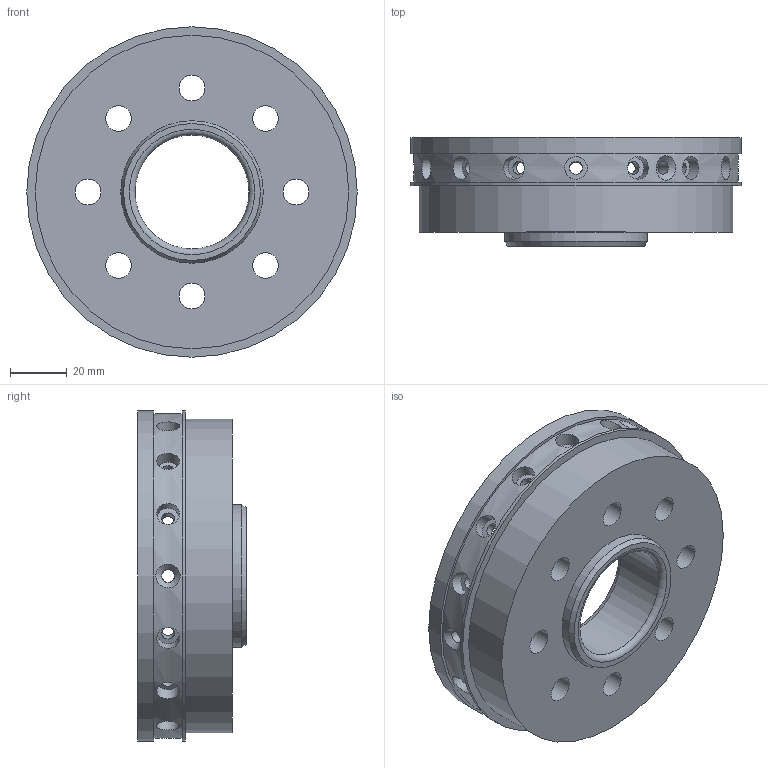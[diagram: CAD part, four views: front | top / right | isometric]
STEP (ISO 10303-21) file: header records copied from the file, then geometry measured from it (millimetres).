
FILE_DESCRIPTION (( 'STEP AP214' ), '1' );
FILE_NAME ('2-130-003 机器人三轴输出转接.STEP', '2026-05-21T03:50:28', ( 'Windows User' ), ( 'P R C' ), 'SwSTEP 2.0', 'SolidWorks 2021', '' );
FILE_SCHEMA (( 'AUTOMOTIVE_DESIGN' ));
Length unit declared in the file: millimetre
Products named in the file (1): 2-130-003 机器人三轴输出转接
Bounding box: 116 x 38.2 x 116 mm (x, y, z)
Volume: 172218.5 mm3; surface area: 45442.5 mm2
Topology: 1 solids, 1 shells, 93 faces, 201 edges, 136 vertices
Faces by surface type: cylinder 56, plane 30, cone 5, torus 2
Full cylindrical faces by diameter (mm): 4.5 x18, 8 x15, 9 x8, 15 x8, 40 x1, 50 x1, 98 x1, 110 x1, 114 x1, 116 x2
Entity records: 4563 total; most frequent: CARTESIAN_POINT 2528, DIRECTION 354, ORIENTED_EDGE 238, EDGE_LOOP 238, AXIS2_PLACEMENT_3D 177, FACE_OUTER_BOUND 151, VERTEX_POINT 119, EDGE_CURVE 119
